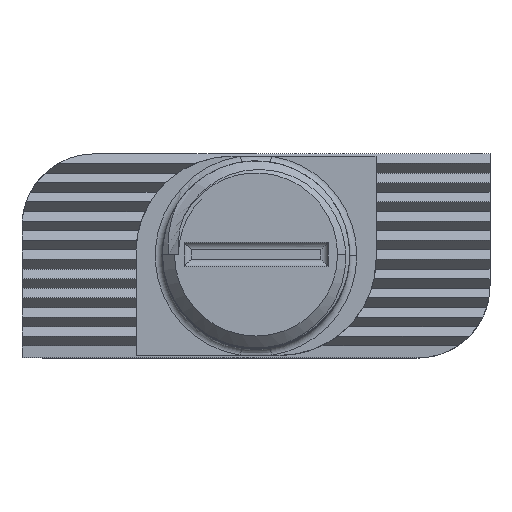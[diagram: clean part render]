
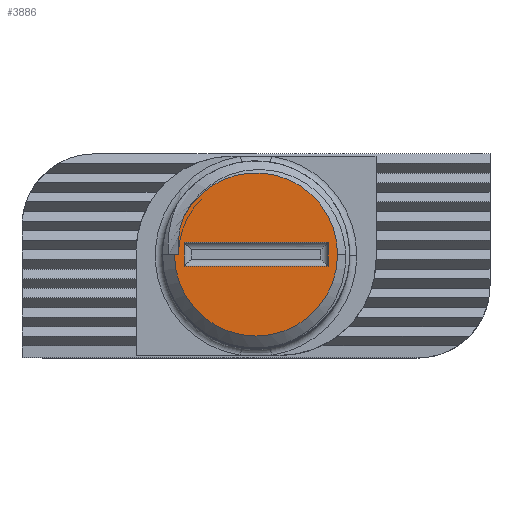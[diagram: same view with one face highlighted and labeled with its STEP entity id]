
A CAD part, top view. The second image highlights one B-rep face of the part: STEP entity #3886.
In plain terms, the highlighted planar face has unit normal (0, 0, 1).
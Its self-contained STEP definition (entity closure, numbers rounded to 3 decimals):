
#22 = CARTESIAN_POINT ( 'NONE',  ( 2.25, 0.897, 39.5 ) ) ;
#37 = DIRECTION ( 'NONE',  ( 0., 0., 1. ) ) ;
#41 = CIRCLE ( 'NONE', #981, 3.4 ) ;
#338 = CARTESIAN_POINT ( 'NONE',  ( -3.75, 0.897, 39.5 ) ) ;
#340 = DIRECTION ( 'NONE',  ( -1., 0., 0. ) ) ;
#351 = DIRECTION ( 'NONE',  ( 0., -1., 0. ) ) ;
#426 = CARTESIAN_POINT ( 'NONE',  ( -4.15, 0.397, 39.5 ) ) ;
#450 = CARTESIAN_POINT ( 'NONE',  ( -3.75, 0.897, 39.5 ) ) ;
#778 = AXIS2_PLACEMENT_3D ( 'NONE', #4968, #4947, #4774 ) ;
#854 = EDGE_LOOP ( 'NONE', ( #2218, #2339, #2403, #6609 ) ) ;
#981 = AXIS2_PLACEMENT_3D ( 'NONE', #3269, #37, #3816 ) ;
#986 = AXIS2_PLACEMENT_3D ( 'NONE', #3053, #3014, #2703 ) ;
#1587 = ORIENTED_EDGE ( 'NONE', *, *, #2944, .F. ) ;
#1838 = CARTESIAN_POINT ( 'NONE',  ( -3.762, 1.974, 39.5 ) ) ;
#2138 = FACE_OUTER_BOUND ( 'NONE', #854, .T. ) ;
#2152 = FACE_BOUND ( 'NONE', #6142, .T. ) ;
#2205 = CIRCLE ( 'NONE', #986, 3.4 ) ;
#2218 = ORIENTED_EDGE ( 'NONE', *, *, #3118, .T. ) ;
#2271 = ORIENTED_EDGE ( 'NONE', *, *, #3126, .F. ) ;
#2291 = CARTESIAN_POINT ( 'NONE',  ( -3.861, 1.727, 39.5 ) ) ;
#2339 = ORIENTED_EDGE ( 'NONE', *, *, #3914, .T. ) ;
#2381 = CARTESIAN_POINT ( 'NONE',  ( -3.762, 1.974, 39.5 ) ) ;
#2403 = ORIENTED_EDGE ( 'NONE', *, *, #5293, .T. ) ;
#2569 = VERTEX_POINT ( 'NONE', #1838 ) ;
#2674 = CARTESIAN_POINT ( 'NONE',  ( -3.931, 1.463, 39.5 ) ) ;
#2703 = DIRECTION ( 'NONE',  ( 1., 0., 0. ) ) ;
#2729 = CARTESIAN_POINT ( 'NONE',  ( -3.75, 0.897, 39.5 ) ) ;
#2743 = CARTESIAN_POINT ( 'NONE',  ( -4.005, 0.933, 39.5 ) ) ;
#2761 = VECTOR ( 'NONE', #6231, 1000. ) ;
#2769 = VECTOR ( 'NONE', #5754, 1000. ) ;
#2783 = LINE ( 'NONE', #6667, #2761 ) ;
#2812 = LINE ( 'NONE', #6605, #2769 ) ;
#2858 = VECTOR ( 'NONE', #5521, 1000. ) ;
#2883 = LINE ( 'NONE', #5358, #2858 ) ;
#2903 = VERTEX_POINT ( 'NONE', #426 ) ;
#2913 = EDGE_CURVE ( 'NONE', #5318, #5244, #2996, .T. ) ;
#2942 = VECTOR ( 'NONE', #340, 1000. ) ;
#2944 = EDGE_CURVE ( 'NONE', #4805, #5318, #2954, .T. ) ;
#2954 = LINE ( 'NONE', #338, #2942 ) ;
#2961 = VECTOR ( 'NONE', #351, 1000. ) ;
#2996 = LINE ( 'NONE', #450, #2961 ) ;
#3014 = DIRECTION ( 'NONE',  ( 0., 0., 1. ) ) ;
#3028 = ORIENTED_EDGE ( 'NONE', *, *, #3037, .F. ) ;
#3037 = EDGE_CURVE ( 'NONE', #5165, #4805, #2883, .T. ) ;
#3053 = CARTESIAN_POINT ( 'NONE',  ( -0.75, 0.397, 39.5 ) ) ;
#3109 = VERTEX_POINT ( 'NONE', #6250 ) ;
#3118 = EDGE_CURVE ( 'NONE', #4735, #2903, #2812, .T. ) ;
#3126 = EDGE_CURVE ( 'NONE', #5244, #5165, #2783, .T. ) ;
#3173 = EDGE_CURVE ( 'NONE', #4735, #2569, #4018, .T. ) ;
#3242 = CARTESIAN_POINT ( 'NONE',  ( -3.75, -0.103, 39.5 ) ) ;
#3269 = CARTESIAN_POINT ( 'NONE',  ( -0.75, 0.397, 39.5 ) ) ;
#3816 = DIRECTION ( 'NONE',  ( 1., 0., 0. ) ) ;
#3886 = ADVANCED_FACE ( 'NONE', ( #2152, #2138 ), #5726, .T. ) ;
#3914 = EDGE_CURVE ( 'NONE', #2903, #3109, #2205, .T. ) ;
#4018 = B_SPLINE_CURVE_WITH_KNOTS ( 'NONE', 3,
 ( #5046, #6517, #2743, #2674, #2291, #2381 ),
 .UNSPECIFIED., .F., .F.,
 ( 4, 2, 4 ),
 ( 0., 0.001, 0.002 ),
 .UNSPECIFIED. ) ;
#4735 = VERTEX_POINT ( 'NONE', #6079 ) ;
#4774 = DIRECTION ( 'NONE',  ( 1., 0., 0. ) ) ;
#4805 = VERTEX_POINT ( 'NONE', #22 ) ;
#4947 = DIRECTION ( 'NONE',  ( 0., 0., 1. ) ) ;
#4968 = CARTESIAN_POINT ( 'NONE',  ( -0.75, 0.397, 39.5 ) ) ;
#5046 = CARTESIAN_POINT ( 'NONE',  ( -3.983, 0.397, 39.5 ) ) ;
#5165 = VERTEX_POINT ( 'NONE', #5749 ) ;
#5244 = VERTEX_POINT ( 'NONE', #3242 ) ;
#5293 = EDGE_CURVE ( 'NONE', #3109, #2569, #41, .T. ) ;
#5318 = VERTEX_POINT ( 'NONE', #2729 ) ;
#5358 = CARTESIAN_POINT ( 'NONE',  ( 2.25, 0.897, 39.5 ) ) ;
#5461 = ORIENTED_EDGE ( 'NONE', *, *, #2913, .F. ) ;
#5521 = DIRECTION ( 'NONE',  ( 0., 1., 0. ) ) ;
#5726 = PLANE ( 'NONE',  #778 ) ;
#5749 = CARTESIAN_POINT ( 'NONE',  ( 2.25, -0.103, 39.5 ) ) ;
#5754 = DIRECTION ( 'NONE',  ( -1., 0., 0. ) ) ;
#6079 = CARTESIAN_POINT ( 'NONE',  ( -3.983, 0.397, 39.5 ) ) ;
#6142 = EDGE_LOOP ( 'NONE', ( #5461, #1587, #3028, #2271 ) ) ;
#6231 = DIRECTION ( 'NONE',  ( 1., 0., 0. ) ) ;
#6250 = CARTESIAN_POINT ( 'NONE',  ( 2.65, 0.397, 39.5 ) ) ;
#6517 = CARTESIAN_POINT ( 'NONE',  ( -4.01, 0.666, 39.5 ) ) ;
#6605 = CARTESIAN_POINT ( 'NONE',  ( -0.75, 0.397, 39.5 ) ) ;
#6609 = ORIENTED_EDGE ( 'NONE', *, *, #3173, .F. ) ;
#6667 = CARTESIAN_POINT ( 'NONE',  ( -3.75, -0.103, 39.5 ) ) ;
